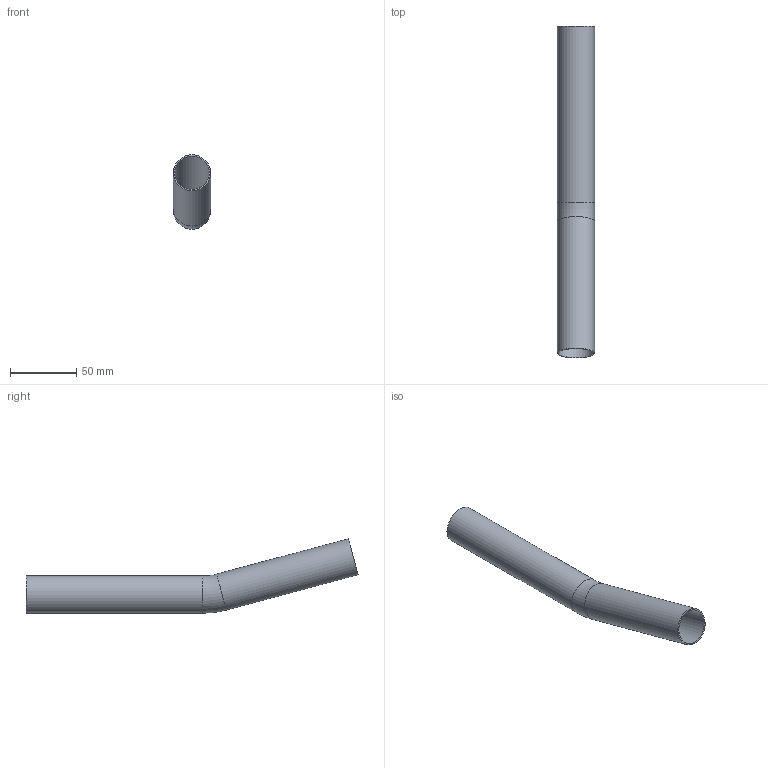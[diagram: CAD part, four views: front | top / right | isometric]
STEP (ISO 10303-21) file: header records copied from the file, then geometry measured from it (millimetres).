
FILE_DESCRIPTION(('STEP AP203'), '1');
FILE_NAME('ÂÐ.747111.012 - VTi.955.I.152828 Îòâîä 15 ãð. d28 (110õ140)', '', ('UNSPECIFIED'), ('UNSPECIFIED'), 'C3D Converter', 'C3D Toolkit', '');
FILE_SCHEMA(('CONFIG_CONTROL_DESIGN'));
Length unit declared in the file: millimetre
Products named in the file (1): ВР.747111.012
Bounding box: 28 x 249.88 x 55.99 mm (x, y, z)
Volume: 21198.6 mm3; surface area: 42566.8 mm2
Topology: 1 solids, 1 shells, 8 faces, 14 edges, 8 vertices
Faces by surface type: cylinder 4, torus 2, plane 2
Full cylindrical faces by diameter (mm): 26 x2, 28 x2
Entity records: 208 total; most frequent: DIRECTION 34, CARTESIAN_POINT 25, AXIS2_PLACEMENT_3D 17, EDGE_LOOP 16, ORIENTED_EDGE 16, FACE_OUTER_BOUND 12, ADVANCED_FACE 8, EDGE_CURVE 8
